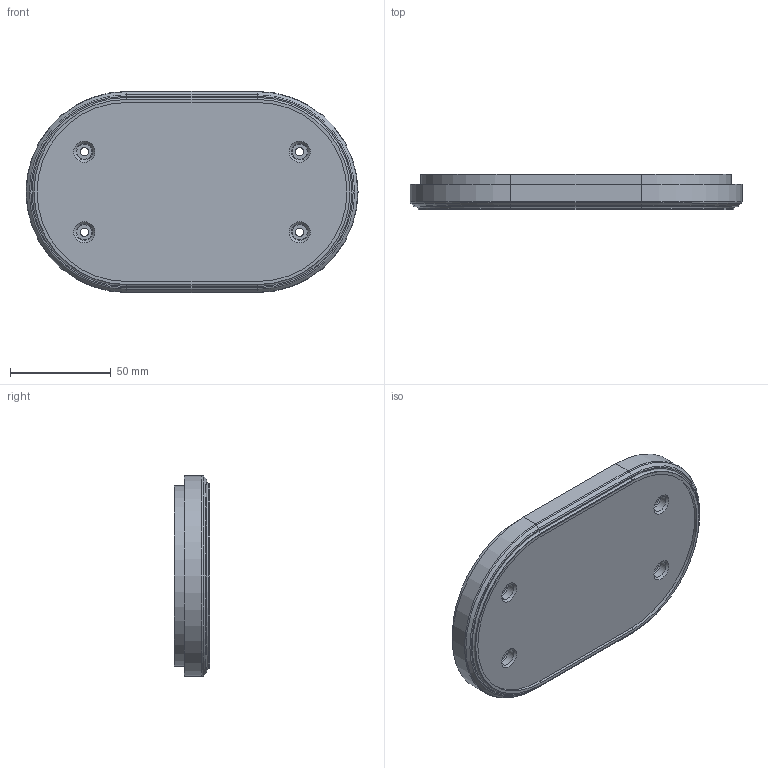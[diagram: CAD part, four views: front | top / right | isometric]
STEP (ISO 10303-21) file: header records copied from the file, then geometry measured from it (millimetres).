
FILE_DESCRIPTION (( 'STEP AP214' ), '1' );
FILE_NAME ('MONO_038-p315_02.STEP', '2026-03-17T12:53:58', ( '' ), ( '' ), 'SwSTEP 2.0', 'SolidWorks 2024', '' );
FILE_SCHEMA (( 'AUTOMOTIVE_DESIGN' ));
Length unit declared in the file: millimetre
Products named in the file (1): MONO_038-p315_02
Bounding box: 165 x 17.5 x 100 mm (x, y, z)
Volume: 68449.6 mm3; surface area: 56430.1 mm2
Topology: 1 solids, 1 shells, 257 faces, 659 edges, 429 vertices
Faces by surface type: plane 133, cylinder 106, torus 12, cone 6
Full cylindrical faces by diameter (mm): 3.3 x7, 4.2 x4, 8.2 x4, 8.5 x4, 9.3 x2, 12.5 x1
Entity records: 7692 total; most frequent: DIRECTION 1386, CARTESIAN_POINT 1313, ORIENTED_EDGE 1252, EDGE_CURVE 626, AXIS2_PLACEMENT_3D 503, VERTEX_POINT 426, VECTOR 380, LINE 380
